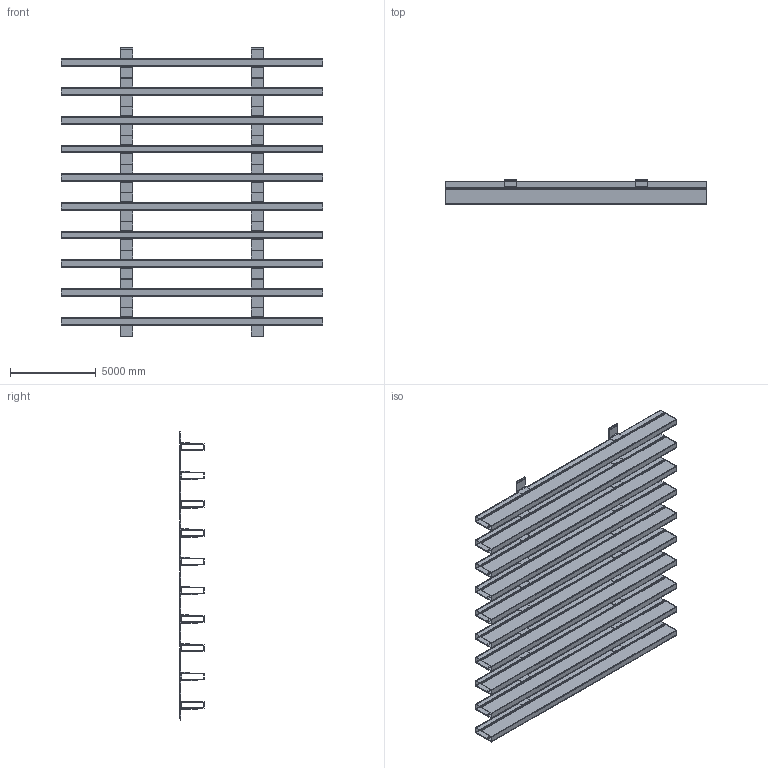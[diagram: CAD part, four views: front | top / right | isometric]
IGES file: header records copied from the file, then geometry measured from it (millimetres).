
Global section: file name: 3D_L_066P; native system: AutoCAD 2023 - English; preprocessor: Autodesk Translation Framework DWG producer (atf_dwg_producer); organization: unknown; date: 20260202.111957; units: inch
Bounding box: 15240 x 1452.88 x 16865.6 mm (x, y, z)
Volume: 19587438733.4 mm3; surface area: 1123412899.9 mm2
Topology: 10 solids, 10 shells, 1780 faces, 5680 edges, 3800 vertices
Faces by surface type: bspline 1780
